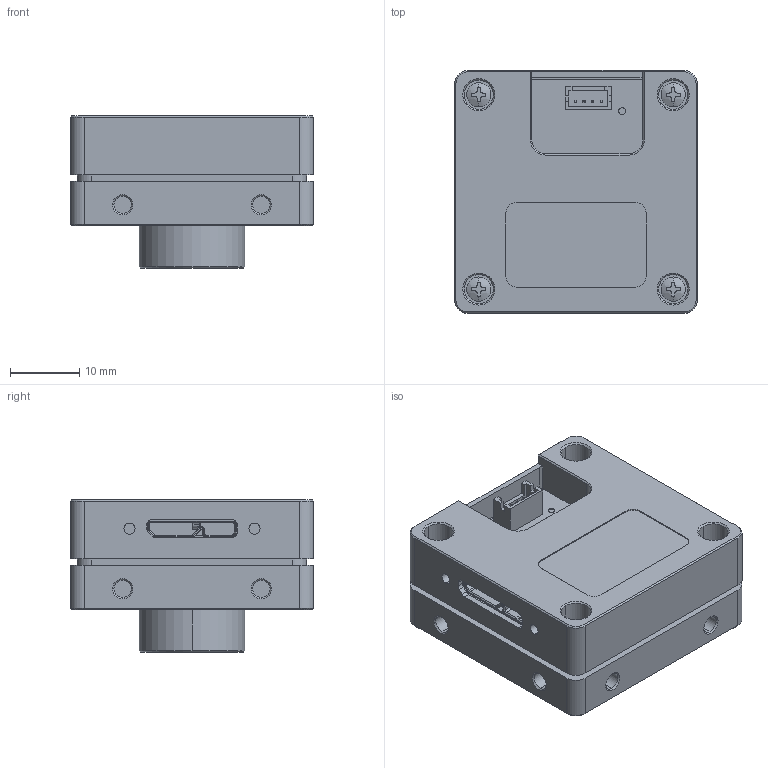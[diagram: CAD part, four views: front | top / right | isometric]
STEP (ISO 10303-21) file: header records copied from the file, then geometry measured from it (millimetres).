
FILE_DESCRIPTION (( 'STEP AP203' ), '1' );
FILE_NAME ('ven_161-61_u3(s-mount)_user_s1.0.0.STEP', '2020-06-11T06:05:01', ( 'DH' ), ( '' ), 'SwSTEP 2.0', 'SolidWorks 2016', '' );
FILE_SCHEMA (( 'CONFIG_CONTROL_DESIGN' ));
Length unit declared in the file: millimetre
Products named in the file (1): ven_161-61_u3(s-mount)_user_s1.0.0
Bounding box: 35 x 35 x 21.9 mm (x, y, z)
Volume: 17673.5 mm3; surface area: 7521.8 mm2
Topology: 1 solids, 16 shells, 1070 faces, 3007 edges, 1946 vertices
Faces by surface type: plane 620, cylinder 370, cone 60, torus 12, bspline 8
Entity records: 35554 total; most frequent: CARTESIAN_POINT 7734, ORIENTED_EDGE 6014, DIRECTION 5538, EDGE_CURVE 3007, VECTOR 2024, LINE 2024, VERTEX_POINT 1946, AXIS2_PLACEMENT_3D 1757
